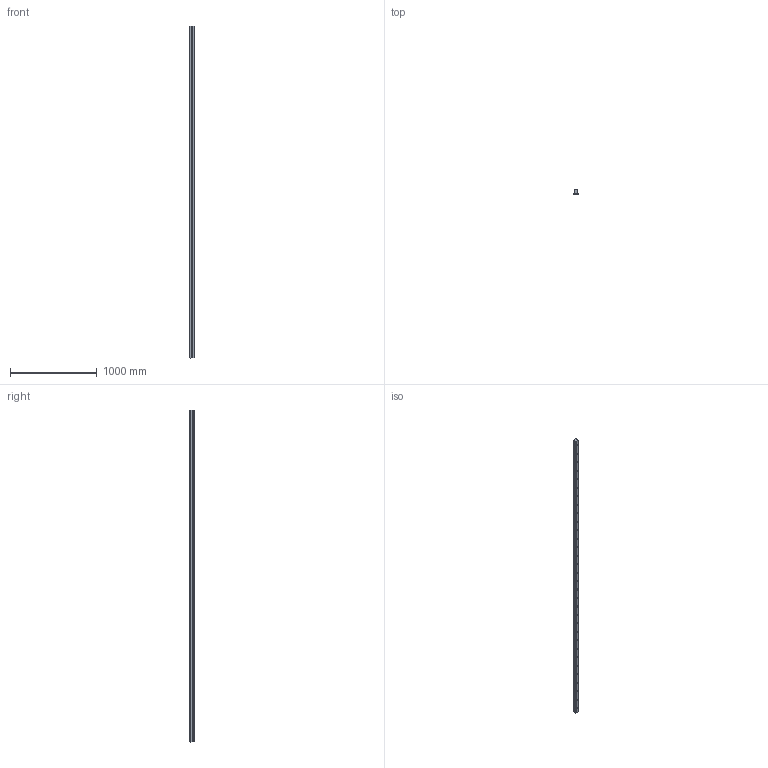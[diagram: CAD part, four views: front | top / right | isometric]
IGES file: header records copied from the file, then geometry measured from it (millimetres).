
Start section: 3D InterOp IGES (v. 2019 1.0.2), Spatial Corp. Copyright (c) 1999-2017.
Global section: file name: R1607_size55.igs; native system: Spatial Corp.; preprocessor: 3D InterOp GENERIC/IGES 3.0; author: Noname; organization: Noname; date: 20220629.163530; units: millimetre
Bounding box: 53 x 47.85 x 3836 mm (x, y, z)
Surface area: 855014 mm2 (no closed solid volume)
Topology: 0 solids, 0 shells, 302 faces, 4192 edges, 4128 vertices
Faces by surface type: revolution 204, extrusion 98
